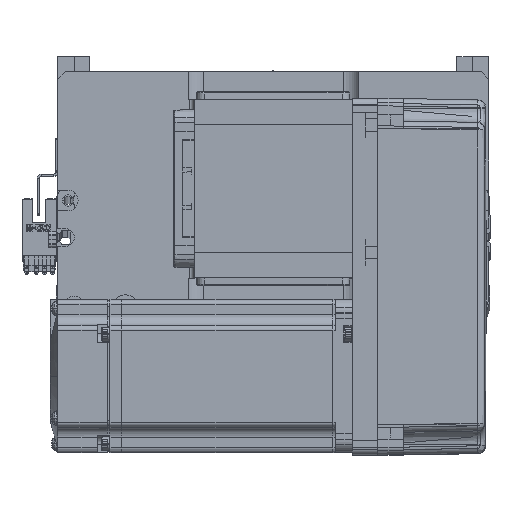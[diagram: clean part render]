
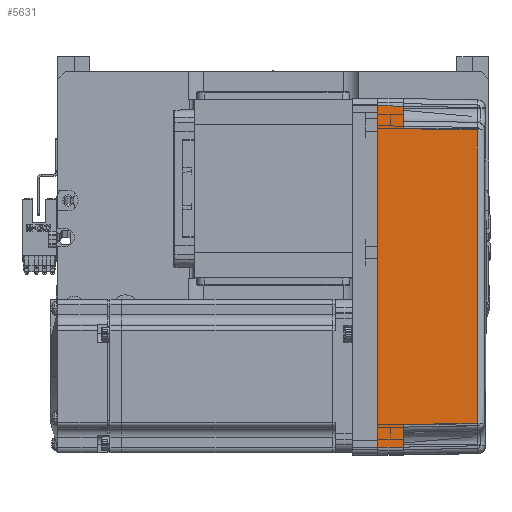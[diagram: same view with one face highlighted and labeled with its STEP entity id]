
A CAD part, top view. The second image highlights one B-rep face of the part: STEP entity #5631.
In plain terms, the highlighted planar face has unit normal (0.018, 0, 1) as drawn and (0, 1, 0.017) by its records, which use the part's own axes.
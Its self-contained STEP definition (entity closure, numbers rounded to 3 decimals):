
#1939 = ORIENTED_EDGE ( 'NONE', *, *, #9654, .T. ) ;
#2626 = CARTESIAN_POINT ( 'NONE',  ( 57.495, 35.32, 38.985 ) ) ;
#2993 = LINE ( 'NONE', #18273, #55182 ) ;
#4289 = CARTESIAN_POINT ( 'NONE',  ( 0., 36., 0. ) ) ;
#5244 = FACE_OUTER_BOUND ( 'NONE', #12041, .T. ) ;
#5631 = ADVANCED_FACE ( 'NONE', ( #5244 ), #29340, .T. ) ;
#6225 = DIRECTION ( 'NONE',  ( 1., 0., 0. ) ) ;
#7509 = DIRECTION ( 'NONE',  ( 0.017, 0.017, -1. ) ) ;
#7533 = CARTESIAN_POINT ( 'NONE',  ( 67., 36., 0. ) ) ;
#7650 = CARTESIAN_POINT ( 'NONE',  ( -57.495, 35.32, 38.985 ) ) ;
#9654 = EDGE_CURVE ( 'NONE', #57207, #14919, #2993, .T. ) ;
#9912 = CARTESIAN_POINT ( 'NONE',  ( -67., 36., 0. ) ) ;
#11158 = B_SPLINE_CURVE_WITH_KNOTS ( 'NONE', 3,
 ( #7650, #13389, #38083, #23111 ),
 .UNSPECIFIED., .F., .F.,
 ( 4, 4 ),
 ( 0., 1. ),
 .UNSPECIFIED. ) ;
#12041 = EDGE_LOOP ( 'NONE', ( #13764, #36998, #1939, #46243, #41504, #20745, #53936, #36729 ) ) ;
#13389 = CARTESIAN_POINT ( 'NONE',  ( -19.165, 35.316, 39.181 ) ) ;
#13764 = ORIENTED_EDGE ( 'NONE', *, *, #19019, .T. ) ;
#14919 = VERTEX_POINT ( 'NONE', #53064 ) ;
#16180 = CARTESIAN_POINT ( 'NONE',  ( -66.826, 35.825, 10. ) ) ;
#18273 = CARTESIAN_POINT ( 'NONE',  ( -58., 35.825, 10. ) ) ;
#18596 = LINE ( 'NONE', #2626, #45374 ) ;
#19013 = DIRECTION ( 'NONE',  ( 0., -0.017, 1. ) ) ;
#19019 = EDGE_CURVE ( 'NONE', #41451, #46060, #37088, .T. ) ;
#20745 = ORIENTED_EDGE ( 'NONE', *, *, #25377, .T. ) ;
#22426 = VERTEX_POINT ( 'NONE', #24710 ) ;
#23111 = CARTESIAN_POINT ( 'NONE',  ( 57.495, 35.32, 38.985 ) ) ;
#24710 = CARTESIAN_POINT ( 'NONE',  ( 58., 35.825, 10. ) ) ;
#24743 = CARTESIAN_POINT ( 'NONE',  ( 57.495, 35.32, 38.985 ) ) ;
#25377 = EDGE_CURVE ( 'NONE', #22426, #27951, #43055, .T. ) ;
#26700 = LINE ( 'NONE', #53550, #62253 ) ;
#26834 = VECTOR ( 'NONE', #45166, 1000. ) ;
#27793 = EDGE_CURVE ( 'NONE', #44364, #22426, #18596, .T. ) ;
#27951 = VERTEX_POINT ( 'NONE', #37304 ) ;
#28480 = EDGE_CURVE ( 'NONE', #14919, #44364, #11158, .T. ) ;
#29340 = PLANE ( 'NONE',  #63782 ) ;
#31229 = VECTOR ( 'NONE', #6225, 1000. ) ;
#34089 = DIRECTION ( 'NONE',  ( 0.017, -0.017, 1. ) ) ;
#34718 = DIRECTION ( 'NONE',  ( 1., 0., 0. ) ) ;
#36729 = ORIENTED_EDGE ( 'NONE', *, *, #65207, .F. ) ;
#36998 = ORIENTED_EDGE ( 'NONE', *, *, #62901, .T. ) ;
#37088 = LINE ( 'NONE', #9912, #26834 ) ;
#37304 = CARTESIAN_POINT ( 'NONE',  ( 66.826, 35.825, 10. ) ) ;
#38083 = CARTESIAN_POINT ( 'NONE',  ( 19.165, 35.316, 39.181 ) ) ;
#38849 = LINE ( 'NONE', #44997, #42717 ) ;
#41282 = CARTESIAN_POINT ( 'NONE',  ( 70., 35.825, 10. ) ) ;
#41451 = VERTEX_POINT ( 'NONE', #62136 ) ;
#41504 = ORIENTED_EDGE ( 'NONE', *, *, #27793, .T. ) ;
#42717 = VECTOR ( 'NONE', #65125, 1000. ) ;
#43055 = LINE ( 'NONE', #41282, #31229 ) ;
#43530 = VERTEX_POINT ( 'NONE', #7533 ) ;
#44364 = VERTEX_POINT ( 'NONE', #24743 ) ;
#44997 = CARTESIAN_POINT ( 'NONE',  ( 70., 35.825, 10. ) ) ;
#45166 = DIRECTION ( 'NONE',  ( 0.017, -0.017, 1. ) ) ;
#45374 = VECTOR ( 'NONE', #7509, 1000. ) ;
#45558 = VECTOR ( 'NONE', #34718, 1000. ) ;
#45891 = CARTESIAN_POINT ( 'NONE',  ( -58., 35.825, 10. ) ) ;
#46060 = VERTEX_POINT ( 'NONE', #16180 ) ;
#46243 = ORIENTED_EDGE ( 'NONE', *, *, #28480, .T. ) ;
#47917 = LINE ( 'NONE', #4289, #45558 ) ;
#48590 = EDGE_CURVE ( 'NONE', #43530, #27951, #26700, .T. ) ;
#48672 = DIRECTION ( 'NONE',  ( -0.017, -0.017, 1. ) ) ;
#53064 = CARTESIAN_POINT ( 'NONE',  ( -57.495, 35.32, 38.985 ) ) ;
#53550 = CARTESIAN_POINT ( 'NONE',  ( 67.001, 36.001, -0.052 ) ) ;
#53936 = ORIENTED_EDGE ( 'NONE', *, *, #48590, .F. ) ;
#54545 = DIRECTION ( 'NONE',  ( 0., 1., 0.017 ) ) ;
#55182 = VECTOR ( 'NONE', #34089, 1000. ) ;
#57207 = VERTEX_POINT ( 'NONE', #45891 ) ;
#62136 = CARTESIAN_POINT ( 'NONE',  ( -67., 36., 0. ) ) ;
#62253 = VECTOR ( 'NONE', #48672, 1000. ) ;
#62901 = EDGE_CURVE ( 'NONE', #46060, #57207, #38849, .T. ) ;
#63782 = AXIS2_PLACEMENT_3D ( 'NONE', #64018, #54545, #19013 ) ;
#64018 = CARTESIAN_POINT ( 'NONE',  ( 70., 36., 0. ) ) ;
#65125 = DIRECTION ( 'NONE',  ( 1., 0., 0. ) ) ;
#65207 = EDGE_CURVE ( 'NONE', #41451, #43530, #47917, .T. ) ;
